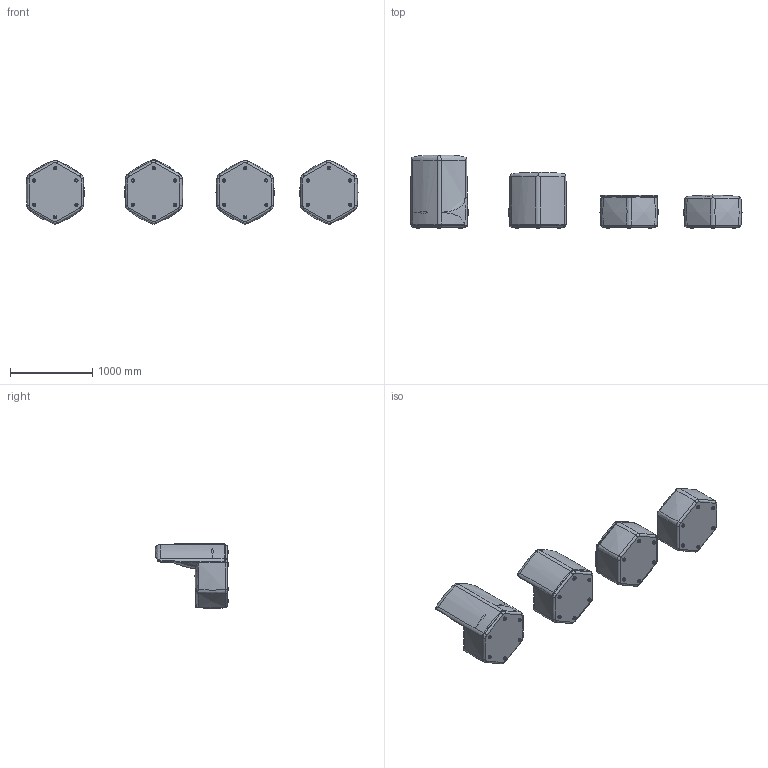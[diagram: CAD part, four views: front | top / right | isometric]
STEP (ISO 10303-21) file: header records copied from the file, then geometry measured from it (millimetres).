
FILE_DESCRIPTION(/* description */ ('','CAx-IF Rec.Pracs.---Representation and Presentation of Product Manufacturing Information (PMI)---4.0---2014-10-13'),/* implementation_level */ '2;1');
FILE_NAME(/* name */ 'HEKTOR_3D_COLLECTION.step',/* time_stamp */ '2026-10-26T10:38:03+02:00',/* author */ (''),/* organization */ (''),/* preprocessor_version */ 'ST-DEVELOPER v20.2',/* originating_system */ 'Autodesk Translation Framework v15.17.0.0',/* authorisation */ '');
FILE_SCHEMA (('AP242_MANAGED_MODEL_BASED_3D_ENGINEERING_MIM_LF { 1 0 10303 442 2 1 4 }'));
Length unit declared in the file: millimetre
Products named in the file (5): 3D MUDELID; HEKTOR_S81-F1; HEKTOR_S81-T1; HEKTOR_S81-1H1; HEKTOR_S81-1H2
Assembly tree (4 placements, depth 2):
  3D MUDELID
    HEKTOR_S81-F1
    HEKTOR_S81-T1
    HEKTOR_S81-1H1
    HEKTOR_S81-1H2
Bounding box: 4044.78 x 897.5 x 784.68 mm (x, y, z)
Volume: 721596071 mm3; surface area: 7793852.1 mm2
Topology: 4 solids, 7 shells, 387 faces, 875 edges, 544 vertices
Faces by surface type: bspline 164, cylinder 90, plane 75, torus 29, cone 29
Full cylindrical faces by diameter (mm): 4.5 x9, 5.6 x2, 24.2 x3, 40 x25, 41.798 x1, 60 x1, 72 x1
Entity records: 37029 total; most frequent: CARTESIAN_POINT 29175, ORIENTED_EDGE 1750, DIRECTION 1294, EDGE_CURVE 875, AXIS2_PLACEMENT_3D 569, VERTEX_POINT 544, EDGE_LOOP 431, FACE_OUTER_BOUND 387
